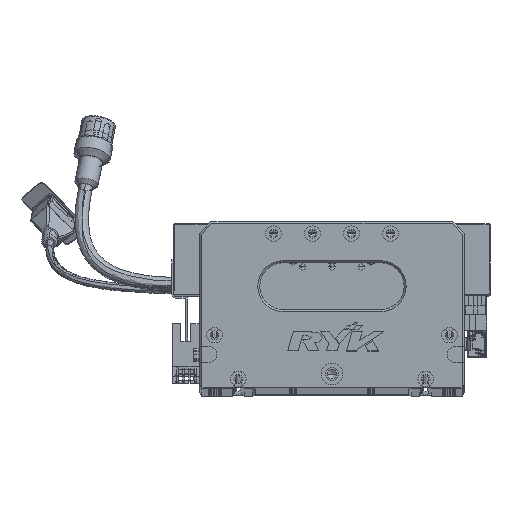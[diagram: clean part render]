
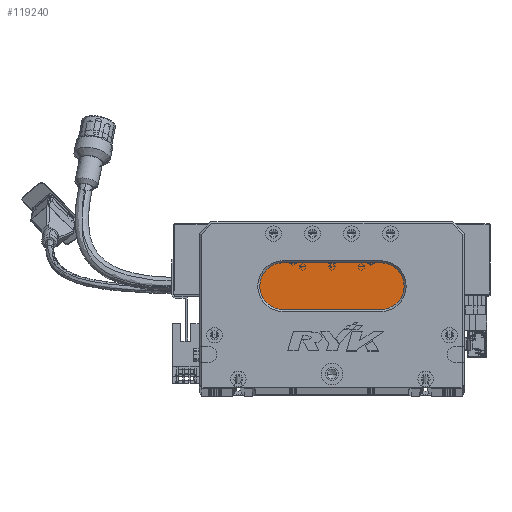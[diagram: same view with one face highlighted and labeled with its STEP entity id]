
A CAD part, top view. The second image highlights one B-rep face of the part: STEP entity #119240.
In plain terms, the highlighted planar face has unit normal (0, 0, 1) as drawn and (0, 0, -1) by its records, which use the part's own axes.
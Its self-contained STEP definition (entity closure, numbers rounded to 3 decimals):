
#702 = ORIENTED_EDGE ( 'NONE', *, *, #42467, .T. ) ;
#4333 = DIRECTION ( 'NONE',  ( 0., 0., -1. ) ) ;
#4653 = VECTOR ( 'NONE', #46725, 1000. ) ;
#4902 = VERTEX_POINT ( 'NONE', #69389 ) ;
#11021 = CARTESIAN_POINT ( 'NONE',  ( 31., 52., 13. ) ) ;
#18351 = LINE ( 'NONE', #120260, #19879 ) ;
#18652 = AXIS2_PLACEMENT_3D ( 'NONE', #94867, #114345, #66412 ) ;
#19879 = VECTOR ( 'NONE', #72713, 1000. ) ;
#23753 = DIRECTION ( 'NONE',  ( -1., 0., 0. ) ) ;
#26471 = CIRCLE ( 'NONE', #118759, 12. ) ;
#28231 = VERTEX_POINT ( 'NONE', #57762 ) ;
#29604 = PLANE ( 'NONE',  #45405 ) ;
#29683 = ORIENTED_EDGE ( 'NONE', *, *, #114811, .T. ) ;
#40994 = CARTESIAN_POINT ( 'NONE',  ( 43., 64., 13. ) ) ;
#42467 = EDGE_CURVE ( 'NONE', #102527, #28231, #105378, .T. ) ;
#42788 = EDGE_CURVE ( 'NONE', #4902, #55805, #60988, .T. ) ;
#45405 = AXIS2_PLACEMENT_3D ( 'NONE', #51252, #4333, #88791 ) ;
#46725 = DIRECTION ( 'NONE',  ( 1., 0., 0. ) ) ;
#48386 = AXIS2_PLACEMENT_3D ( 'NONE', #59924, #61544, #23753 ) ;
#51252 = CARTESIAN_POINT ( 'NONE',  ( 93., 52., 13. ) ) ;
#55805 = VERTEX_POINT ( 'NONE', #11021 ) ;
#57762 = CARTESIAN_POINT ( 'NONE',  ( 93., 64., 13. ) ) ;
#59924 = CARTESIAN_POINT ( 'NONE',  ( 43., 52., 13. ) ) ;
#60988 = CIRCLE ( 'NONE', #48386, 12. ) ;
#61544 = DIRECTION ( 'NONE',  ( 0., 0., -1. ) ) ;
#66412 = DIRECTION ( 'NONE',  ( -1., 0., 0. ) ) ;
#69389 = CARTESIAN_POINT ( 'NONE',  ( 43., 40., 13. ) ) ;
#70209 = CIRCLE ( 'NONE', #18652, 12. ) ;
#72713 = DIRECTION ( 'NONE',  ( -1., 0., 0. ) ) ;
#75711 = DIRECTION ( 'NONE',  ( 0., 0., -1. ) ) ;
#83520 = CARTESIAN_POINT ( 'NONE',  ( 93., 52., 13. ) ) ;
#86618 = CARTESIAN_POINT ( 'NONE',  ( 93., 40., 13. ) ) ;
#88705 = EDGE_CURVE ( 'NONE', #92795, #4902, #18351, .T. ) ;
#88791 = DIRECTION ( 'NONE',  ( -1., 0., 0. ) ) ;
#92795 = VERTEX_POINT ( 'NONE', #86618 ) ;
#94867 = CARTESIAN_POINT ( 'NONE',  ( 43., 52., 13. ) ) ;
#95154 = ORIENTED_EDGE ( 'NONE', *, *, #42788, .T. ) ;
#98211 = ORIENTED_EDGE ( 'NONE', *, *, #88705, .T. ) ;
#99294 = ORIENTED_EDGE ( 'NONE', *, *, #103231, .T. ) ;
#102527 = VERTEX_POINT ( 'NONE', #40994 ) ;
#102577 = DIRECTION ( 'NONE',  ( -1., 0., 0. ) ) ;
#103231 = EDGE_CURVE ( 'NONE', #55805, #102527, #70209, .T. ) ;
#103857 = EDGE_LOOP ( 'NONE', ( #29683, #98211, #95154, #99294, #702 ) ) ;
#104938 = CARTESIAN_POINT ( 'NONE',  ( 93., 64., 13. ) ) ;
#105378 = LINE ( 'NONE', #104938, #4653 ) ;
#114345 = DIRECTION ( 'NONE',  ( 0., 0., -1. ) ) ;
#114811 = EDGE_CURVE ( 'NONE', #28231, #92795, #26471, .T. ) ;
#118759 = AXIS2_PLACEMENT_3D ( 'NONE', #83520, #75711, #102577 ) ;
#119240 = ADVANCED_FACE ( 'NONE', ( #120319 ), #29604, .T. ) ;
#120260 = CARTESIAN_POINT ( 'NONE',  ( 93., 40., 13. ) ) ;
#120319 = FACE_OUTER_BOUND ( 'NONE', #103857, .T. ) ;
